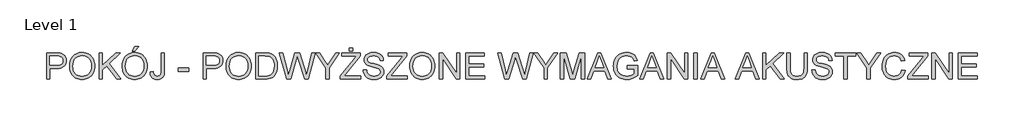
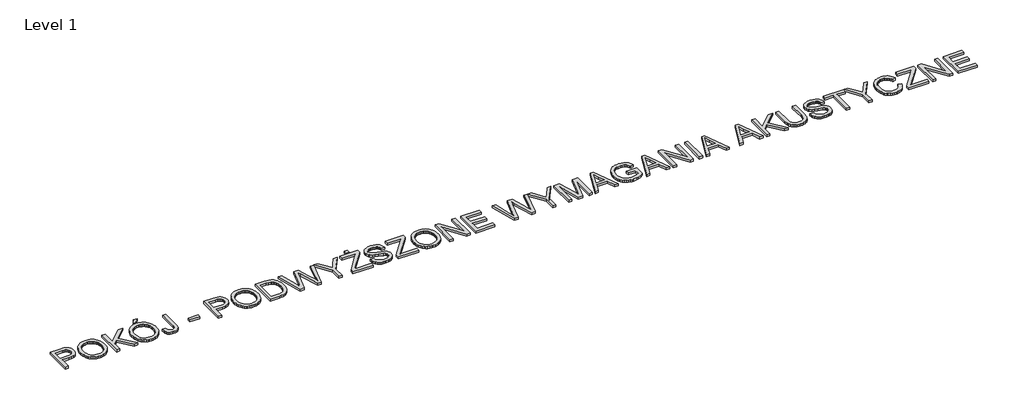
# One storey, part 3 of 4: 1 proxy.
"""IFC4 building model written with IfcOpenShell, lengths in millimetres."""

from ifc_helpers import new_model, si_unit, origin, origin_with_axes, place, context, project, spatial, polyline, outline, extrude, element, save

model = new_model("IFC4")

# Units and contexts
model_context = context("Model", 3, world=origin())
ifc_project = project(units=[si_unit("LENGTHUNIT", "METRE", prefix="MILLI")], contexts=[model_context])

# Site, building, storey
site = spatial("IfcSite", under=ifc_project)
building = spatial("IfcBuilding", under=site)
storey = spatial("IfcBuildingStorey", under=building, Name="Level 1", Elevation=0.0)

# Proxy
placement = place(None, origin())
element("IfcBuildingElementProxy", 1, Name="600mm Arial", ObjectType="600mm Arial", at=placement, inside=storey, context=model_context, shape_type="SweptSolid", body=[
    extrude(outline(polyline([(-7164.3367572, -1712.099464), (-7164.3367572, -1109.3616031), (-6940.9588097, -1109.3616031), (-6888.9402956, -1110.7963429), (-6850.9012973, -1115.1005622), (-6810.7469775, -1125.8243224), (-6777.6927802, -1143.2803231), (-6751.0765179, -1168.2595105), (-6730.2360029, -1201.5528311), (-6716.7715218, -1240.8242341), (-6712.2833615, -1283.7376688), (-6715.3137894, -1320.7374005), (-6724.4050732, -1354.7756821), (-6739.5572129, -1385.8525136), (-6760.7702085, -1413.9678951), (-6789.8926669, -1437.2732195), (-6828.7731953, -1453.9198798), (-6877.4117936, -1463.907876), (-6935.8084618, -1467.237208), (-7088.9945246, -1467.237208), (-7088.9945246, -1712.099464), (-7164.3367572, -1712.099464)]), holes=[polyline([(-7088.9945246, -1391.8949754), (-6931.3938778, -1391.8949754), (-6895.1575013, -1390.16593), (-6864.5865075, -1384.9787939), (-6839.6808964, -1376.333567), (-6820.4406681, -1364.2302494), (-6806.0840732, -1348.9907377), (-6795.8293626, -1330.9369288), (-6789.6765362, -1310.0688226), (-6787.6255941, -1286.3864192), (-6792.4632423, -1252.5412756), (-6806.9761871, -1223.9936328), (-6829.3618065, -1202.5093243), (-6857.8174788, -1189.8541837), (-6886.8801564, -1185.9914227), (-6933.1597114, -1184.7038357), (-7088.9945246, -1184.7038357), (-7088.9945246, -1391.8949754)])]), origin_with_axes(), (0.0, 0.0, 1.0), 50.0),
    extrude(outline(polyline([(-6636.9411289, -1418.6767847), (-6631.9195397, -1347.9790622), (-6616.8547719, -1285.3931378), (-6591.7468258, -1230.9190114), (-6575.4266608, -1206.7238724), (-6556.5957011, -1184.5566829), (-6513.5075225, -1147.5385572), (-6464.5884141, -1121.0970388), (-6409.8383762, -1105.2321277), (-6349.2574087, -1099.943824), (-6308.7076157, -1102.4270275), (-6270.1995679, -1109.8766379), (-6233.7332651, -1122.2926552), (-6199.3087074, -1139.6750795), (-6167.891585, -1161.4996789), (-6140.4475882, -1187.2422215), (-6116.9767169, -1216.9027073), (-6097.4789712, -1250.4811365), (-6082.1566861, -1287.2141537), (-6071.2121967, -1326.3384039), (-6064.6455031, -1367.853887), (-6062.4566052, -1411.7606031), (-6064.7604662, -1456.2467334), (-6071.6720492, -1498.3232366), (-6083.1913542, -1537.9901127), (-6099.3183811, -1575.2473618), (-6119.6714525, -1609.1108995), (-6143.8688907, -1638.5966414), (-6171.9106958, -1663.7045875), (-6203.7968678, -1684.434738), (-6238.2720092, -1700.658334), (-6274.0807229, -1712.2466168), (-6311.2230089, -1719.1995865), (-6349.6988671, -1721.5172431), (-6390.9568328, -1718.9558647), (-6429.9707184, -1711.2717295), (-6466.7405238, -1698.4648376), (-6501.2662491, -1680.5351888), (-6532.6465833, -1658.1771606), (-6559.9802155, -1632.0851301), (-6583.2671458, -1602.2590973), (-6602.5073741, -1568.6990623), (-6617.5721418, -1532.7523928), (-6628.3326902, -1495.7664567), (-6634.7890192, -1457.741254), (-6636.9411289, -1418.6767847)]), holes=[polyline([(-6561.5988963, -1419.4125486), (-6557.8327043, -1469.3617265), (-6546.5341286, -1513.700704), (-6527.7031689, -1552.429481), (-6501.3398255, -1585.5480577), (-6469.2927052, -1612.0723495), (-6433.4104151, -1631.0182723), (-6393.6929551, -1642.3858259), (-6350.1403254, -1646.1750105), (-6305.8427347, -1642.3490377), (-6265.6562253, -1630.8711195), (-6229.5807971, -1611.7412557), (-6197.6164502, -1584.9594465), (-6171.4462448, -1551.1418941), (-6152.7532409, -1510.9048008), (-6141.5374386, -1464.2481668), (-6137.7988378, -1411.171992), (-6139.3991245, -1376.692252), (-6144.1999845, -1344.4749862), (-6152.2014179, -1314.5201948), (-6163.4034247, -1286.8278776), (-6177.6818446, -1261.7613181), (-6194.9125176, -1239.6837999), (-6215.0954435, -1220.5953229), (-6238.2306225, -1204.4958871), (-6263.6006846, -1191.7165863), (-6290.4882599, -1182.5885142), (-6318.8933485, -1177.111671), (-6348.8159503, -1175.2860566), (-6390.8556653, -1178.8039282), (-6429.8603538, -1189.357543), (-6465.8300159, -1206.9469009), (-6498.7646515, -1231.5720019), (-6526.2546336, -1264.4192655), (-6545.8903351, -1306.6751112), (-6557.671756, -1358.3395389), (-6561.5988963, -1419.4125486)])]), origin_with_axes(), (0.0, 0.0, 1.0), 50.0),
    extrude(outline(polyline([(-5958.8610354, -1712.099464), (-5958.8610354, -1109.3616031), (-5883.5188028, -1109.3616031), (-5883.5188028, -1404.4029632), (-5574.4979268, -1109.3616031), (-5469.1365234, -1109.3616031), (-5728.5669064, -1357.1669151), (-5459.7187443, -1712.099464), (-5551.8363959, -1712.099464), (-5781.9833721, -1408.0817832), (-5883.5188028, -1504.9083243), (-5883.5188028, -1712.099464), (-5958.8610354, -1712.099464)])), origin_with_axes(), (0.0, 0.0, 1.0), 50.0),
    extrude(outline(polyline([(-5431.4654071, -1418.6767847), (-5426.4438179, -1347.9790622), (-5411.3790502, -1285.3931378), (-5386.271104, -1230.9190114), (-5369.950939, -1206.7238724), (-5351.1199793, -1184.5566829), (-5308.0318007, -1147.5385572), (-5259.1126923, -1121.0970388), (-5204.3626544, -1105.2321277), (-5143.7816869, -1099.943824), (-5103.2318939, -1102.4270275), (-5064.7238461, -1109.8766379), (-5028.2575433, -1122.2926552), (-4993.8329856, -1139.6750795), (-4962.4158632, -1161.4996789), (-4934.9718664, -1187.2422215), (-4911.5009951, -1216.9027073), (-4892.0032494, -1250.4811365), (-4876.6809643, -1287.2141537), (-4865.7364749, -1326.3384039), (-4859.1697813, -1367.853887), (-4856.9808834, -1411.7606031), (-4859.2847444, -1456.2467334), (-4866.1963274, -1498.3232366), (-4877.7156324, -1537.9901127), (-4893.8426593, -1575.2473618), (-4914.1957307, -1609.1108995), (-4938.393169, -1638.5966414), (-4966.434974, -1663.7045875), (-4998.321146, -1684.434738), (-5032.7962874, -1700.658334), (-5068.6050011, -1712.2466168), (-5105.7472871, -1719.1995865), (-5144.2231453, -1721.5172431), (-5185.481111, -1718.9558647), (-5224.4949966, -1711.2717295), (-5261.264802, -1698.4648376), (-5295.7905273, -1680.5351888), (-5327.1708615, -1658.1771606), (-5354.5044937, -1632.0851301), (-5377.791424, -1602.2590973), (-5397.0316523, -1568.6990623), (-5412.09642, -1532.7523928), (-5422.8569684, -1495.7664567), (-5429.3132974, -1457.741254), (-5431.4654071, -1418.6767847)]), holes=[polyline([(-5356.1231745, -1419.4125486), (-5352.3569826, -1469.3617265), (-5341.0584068, -1513.700704), (-5322.2274471, -1552.429481), (-5295.8641037, -1585.5480577), (-5263.8169834, -1612.0723495), (-5227.9346933, -1631.0182723), (-5188.2172334, -1642.3858259), (-5144.6646036, -1646.1750105), (-5100.3670129, -1642.3490377), (-5060.1805035, -1630.8711195), (-5024.1050753, -1611.7412557), (-4992.1407284, -1584.9594465), (-4965.970523, -1551.1418941), (-4947.2775191, -1510.9048008), (-4936.0617168, -1464.2481668), (-4932.323116, -1411.171992), (-4933.9234027, -1376.692252), (-4938.7242627, -1344.4749862), (-4946.7256961, -1314.5201948), (-4957.9277029, -1286.8278776), (-4972.2061228, -1261.7613181), (-4989.4367958, -1239.6837999), (-5009.6197217, -1220.5953229), (-5032.7549007, -1204.4958871), (-5058.1249628, -1191.7165863), (-5085.0125381, -1182.5885142), (-5113.4176267, -1177.111671), (-5143.3402285, -1175.2860566), (-5185.3799435, -1178.8039282), (-5224.384632, -1189.357543), (-5260.3542941, -1206.9469009), (-5293.2889297, -1231.5720019), (-5320.7789118, -1264.4192655), (-5340.4146133, -1306.6751112), (-5352.1960342, -1358.3395389), (-5356.1231745, -1419.4125486)])]), origin_with_axes(), (0.0, 0.0, 1.0), 50.0),
    extrude(outline(polyline([(-5196.0209302, -1071.6904868), (-5139.5142557, -958.6771379), (-5045.336465, -958.6771379), (-5139.5142557, -1071.6904868), (-5196.0209302, -1071.6904868)])), origin_with_axes(), (0.0, 0.0, 1.0), 50.0),
    extrude(outline(polyline([(-4791.0564299, -1542.8737462), (-4715.7141973, -1533.1616616), (-4713.0562499, -1563.116453), (-4707.8783108, -1587.9392906), (-4700.18038, -1607.6301744), (-4689.9624576, -1622.1891044), (-4677.3808934, -1632.6829383), (-4662.5920372, -1640.1785339), (-4645.595889, -1644.6758913), (-4626.3924488, -1646.1750105), (-4598.5621759, -1642.772102), (-4574.8153931, -1632.5633766), (-4556.4948698, -1616.4869335), (-4544.9433751, -1595.4808715), (-4538.8181399, -1565.0754246), (-4536.7763948, -1520.8008265), (-4536.7763948, -1109.3616031), (-4461.4341622, -1109.3616031), (-4461.4341622, -1519.4764513), (-4465.9775048, -1586.5597332), (-4471.6566831, -1613.6864318), (-4479.6075328, -1636.5365022), (-4490.0277903, -1656.0204524), (-4503.1151923, -1673.0487902), (-4518.8697387, -1687.6215158), (-4537.2914296, -1699.738629), (-4580.2048643, -1716.0725896), (-4629.924116, -1721.5172431), (-4667.0526064, -1718.7075443), (-4699.5641777, -1710.2784481), (-4727.45883, -1696.2299544), (-4750.7365632, -1676.5620633), (-4768.9835102, -1651.348351), (-4781.7858036, -1620.6623941), (-4789.1434435, -1584.5041925), (-4791.0564299, -1542.8737462)])), origin_with_axes(), (0.0, 0.0, 1.0), 50.0),
    extrude(outline(polyline([(-4141.2296736, -1533.1616616), (-4141.2296736, -1457.8194289), (-3905.7851967, -1457.8194289), (-3905.7851967, -1533.1616616), (-4141.2296736, -1533.1616616)])), origin_with_axes(), (0.0, 0.0, 1.0), 50.0),
    extrude(outline(polyline([(-3576.162929, -1712.099464), (-3576.162929, -1109.3616031), (-3352.7849815, -1109.3616031), (-3300.7664674, -1110.7963429), (-3262.7274691, -1115.1005622), (-3222.5731493, -1125.8243224), (-3189.5189521, -1143.2803231), (-3162.9026897, -1168.2595105), (-3142.0621747, -1201.5528311), (-3128.5976937, -1240.8242341), (-3124.1095333, -1283.7376688), (-3127.1399613, -1320.7374005), (-3136.2312451, -1354.7756821), (-3151.3833848, -1385.8525136), (-3172.5963803, -1413.9678951), (-3201.7188387, -1437.2732195), (-3240.5993671, -1453.9198798), (-3289.2379654, -1463.907876), (-3347.6346336, -1467.237208), (-3500.8206964, -1467.237208), (-3500.8206964, -1712.099464), (-3576.162929, -1712.099464)]), holes=[polyline([(-3500.8206964, -1391.8949754), (-3343.2200497, -1391.8949754), (-3306.9836731, -1390.16593), (-3276.4126793, -1384.9787939), (-3251.5070683, -1376.333567), (-3232.2668399, -1364.2302494), (-3217.9102451, -1348.9907377), (-3207.6555344, -1330.9369288), (-3201.5027081, -1310.0688226), (-3199.451766, -1286.3864192), (-3204.2894142, -1252.5412756), (-3218.8023589, -1223.9936328), (-3241.1879783, -1202.5093243), (-3269.6436506, -1189.8541837), (-3298.7063283, -1185.9914227), (-3344.9858832, -1184.7038357), (-3500.8206964, -1184.7038357), (-3500.8206964, -1391.8949754)])]), origin_with_axes(), (0.0, 0.0, 1.0), 50.0),
    extrude(outline(polyline([(-3048.7673007, -1418.6767847), (-3043.7457115, -1347.9790622), (-3028.6809438, -1285.3931378), (-3003.5729976, -1230.9190114), (-2987.2528326, -1206.7238724), (-2968.421873, -1184.5566829), (-2925.3336943, -1147.5385572), (-2876.414586, -1121.0970388), (-2821.6645481, -1105.2321277), (-2761.0835805, -1099.943824), (-2720.5337876, -1102.4270275), (-2682.0257397, -1109.8766379), (-2645.559437, -1122.2926552), (-2611.1348793, -1139.6750795), (-2579.7177569, -1161.4996789), (-2552.27376, -1187.2422215), (-2528.8028887, -1216.9027073), (-2509.305143, -1250.4811365), (-2493.9828579, -1287.2141537), (-2483.0383685, -1326.3384039), (-2476.4716749, -1367.853887), (-2474.2827771, -1411.7606031), (-2476.5866381, -1456.2467334), (-2483.498221, -1498.3232366), (-2495.017526, -1537.9901127), (-2511.144553, -1575.2473618), (-2531.4976244, -1609.1108995), (-2555.6950626, -1638.5966414), (-2583.7368677, -1663.7045875), (-2615.6230396, -1684.434738), (-2650.0981811, -1700.658334), (-2685.9068948, -1712.2466168), (-2723.0491807, -1719.1995865), (-2761.5250389, -1721.5172431), (-2802.7830047, -1718.9558647), (-2841.7968902, -1711.2717295), (-2878.5666957, -1698.4648376), (-2913.0924209, -1680.5351888), (-2944.4727551, -1658.1771606), (-2971.8063873, -1632.0851301), (-2995.0933176, -1602.2590973), (-3014.333546, -1568.6990623), (-3029.3983137, -1532.7523928), (-3040.158862, -1495.7664567), (-3046.6151911, -1457.741254), (-3048.7673007, -1418.6767847)]), holes=[polyline([(-2973.4250681, -1419.4125486), (-2969.6588762, -1469.3617265), (-2958.3603004, -1513.700704), (-2939.5293408, -1552.429481), (-2913.1659973, -1585.5480577), (-2881.118877, -1612.0723495), (-2845.2365869, -1631.0182723), (-2805.519127, -1642.3858259), (-2761.9664973, -1646.1750105), (-2717.6689065, -1642.3490377), (-2677.4823971, -1630.8711195), (-2641.4069689, -1611.7412557), (-2609.4426221, -1584.9594465), (-2583.2724167, -1551.1418941), (-2564.5794128, -1510.9048008), (-2553.3636104, -1464.2481668), (-2549.6250097, -1411.171992), (-2551.2252964, -1376.692252), (-2556.0261564, -1344.4749862), (-2564.0275898, -1314.5201948), (-2575.2295965, -1286.8278776), (-2589.5080165, -1261.7613181), (-2606.7386894, -1239.6837999), (-2626.9216154, -1220.5953229), (-2650.0567944, -1204.4958871), (-2675.4268564, -1191.7165863), (-2702.3144318, -1182.5885142), (-2730.7195203, -1177.111671), (-2760.6421221, -1175.2860566), (-2802.6818371, -1178.8039282), (-2841.6865256, -1189.357543), (-2877.6561877, -1206.9469009), (-2910.5908233, -1231.5720019), (-2938.0808054, -1264.4192655), (-2957.7165069, -1306.6751112), (-2969.4979278, -1358.3395389), (-2973.4250681, -1419.4125486)])]), origin_with_axes(), (0.0, 0.0, 1.0), 50.0),
    extrude(outline(polyline([(-2370.6872072, -1712.099464), (-2370.6872072, -1109.3616031), (-2162.7603035, -1109.3616031), (-2100.6250346, -1111.5321069), (-2055.1916082, -1118.0436182), (-2007.1462196, -1134.782249), (-1966.6056237, -1161.159388), (-1944.2659896, -1182.7172729), (-1924.9245937, -1207.071061), (-1908.581436, -1234.2207523), (-1895.2365167, -1264.1663467), (-1884.8714414, -1296.6319328), (-1877.4678163, -1331.341599), (-1871.5449162, -1407.493172), (-1875.5548299, -1472.1852209), (-1887.5845712, -1529.1149596), (-1905.9050945, -1577.5834125), (-1928.7873546, -1616.8916037), (-1955.1277055, -1647.9224499), (-1983.8225011, -1671.5588681), (-2016.7663338, -1689.0884452), (-2055.8537957, -1701.7987681), (-2101.1584635, -1709.52429), (-2152.7539133, -1712.099464), (-2370.6872072, -1712.099464)]), holes=[polyline([(-2295.3449746, -1636.7572314), (-2162.0245396, -1636.7572314), (-2106.8790285, -1634.0349046), (-2065.0508456, -1625.8679243), (-2033.4865704, -1612.7345371), (-2009.1327824, -1595.1129895), (-1982.9579784, -1562.5002507), (-1963.2946858, -1520.2857917), (-1950.989033, -1468.2856717), (-1946.8871488, -1406.3159496), (-1948.8967042, -1362.5747804), (-1954.9253704, -1324.2046883), (-1964.9731474, -1291.2056733), (-1979.0400352, -1263.5777355), (-1995.9855996, -1240.6954754), (-2014.6694064, -1221.9334936), (-2035.0914556, -1207.2917902), (-2057.2517473, -1196.7703652), (-2100.5882464, -1187.7204681), (-2164.0846787, -1184.7038357), (-2295.3449746, -1184.7038357), (-2295.3449746, -1636.7572314)])]), origin_with_axes(), (0.0, 0.0, 1.0), 50.0),
    extrude(outline(polyline([(-1660.0863453, -1712.099464), (-1824.4560208, -1109.3616031), (-1746.7593434, -1109.3616031), (-1651.4043302, -1505.4969355), (-1621.9737706, -1627.7809107), (-1590.4830718, -1519.6236041), (-1470.9949998, -1109.3616031), (-1359.0117205, -1109.3616031), (-1272.1915696, -1406.757408), (-1234.9986999, -1517.1220066), (-1207.5914913, -1627.7809107), (-1179.0438484, -1509.0286027), (-1082.8059185, -1109.3616031), (-1005.1092411, -1109.3616031), (-1169.6260694, -1712.099464), (-1250.1186499, -1712.099464), (-1394.6226976, -1247.0966221), (-1414.782631, -1182.2022382), (-1437.4441619, -1260.3403739), (-1569.1459161, -1712.099464), (-1660.0863453, -1712.099464)])), origin_with_axes(), (0.0, 0.0, 1.0), 50.0),
    extrude(outline(polyline([(-760.2469851, -1712.099464), (-760.2469851, -1456.7893594), (-995.691462, -1109.3616031), (-906.811172, -1109.3616031), (-781.1426825, -1294.9212815), (-716.8369097, -1389.5405306), (-652.3839841, -1288.1522528), (-538.3405656, -1109.3616031), (-449.4602756, -1109.3616031), (-684.9047525, -1456.7893594), (-684.9047525, -1712.099464), (-760.2469851, -1712.099464)])), origin_with_axes(), (0.0, 0.0, 1.0), 50.0),
    extrude(outline(polyline([(-430.6247175, -1712.099464), (-430.6247175, -1633.9613282), (-122.3396055, -1256.5144012), (-63.7727919, -1184.7038357), (-392.9536011, -1184.7038357), (-392.9536011, -1109.3616031), (30.8464573, -1109.3616031), (30.8464573, -1184.7038357), (-306.5749087, -1597.7617399), (-338.3599131, -1636.7572314), (40.2642364, -1636.7572314), (40.2642364, -1712.099464), (-430.6247175, -1712.099464)])), origin_with_axes(), (0.0, 0.0, 1.0), 50.0),
    extrude(outline(polyline([(-223.4335778, -1071.6904868), (-223.4335778, -996.3482542), (-148.0913452, -996.3482542), (-148.0913452, -1071.6904868), (-223.4335778, -1071.6904868)])), origin_with_axes(), (0.0, 0.0, 1.0), 50.0),
    extrude(outline(polyline([(96.7709108, -1504.9083243), (172.1131434, -1504.9083243), (180.7583703, -1546.7181131), (196.3933551, -1580.3241333), (220.7839314, -1606.995578), (255.6959327, -1628.0016399), (298.3702442, -1641.6316678), (346.0477508, -1646.1750105), (388.0230864, -1642.7353138), (424.7744977, -1632.4162238), (454.5545452, -1616.0822633), (475.6157895, -1594.5979547), (488.1421714, -1569.931467), (492.317632, -1544.0509686), (489.1906351, -1518.8326578), (479.8096442, -1497.0356496), (460.7533569, -1478.4392148), (428.6004705, -1462.8226241), (318.8980595, -1434.0542521), (246.885159, -1415.0163588), (200.8079391, -1396.8981705), (163.3023697, -1371.5511011), (136.7228955, -1340.8329545), (120.8855756, -1305.4059183), (115.606469, -1265.9321803), (117.2389453, -1243.4959771), (122.1363744, -1221.8047349), (130.2987562, -1200.8584538), (141.7260906, -1180.6571338), (156.2896191, -1162.0239107), (173.8605829, -1145.7819206), (194.438982, -1131.9311635), (218.0248164, -1120.4716394), (271.0366119, -1105.0757779), (329.7137902, -1099.943824), (393.2837989, -1105.3149012), (448.9075566, -1121.4281325), (473.2429506, -1133.4302826), (494.5985004, -1147.9524244), (512.9742061, -1164.9945578), (528.3700676, -1184.5566829), (540.6665233, -1206.0685826), (549.7440115, -1228.9600397), (555.6025323, -1253.2310544), (558.2420856, -1278.8816265), (482.899853, -1278.8816265), (477.8598696, -1254.8405381), (469.06749, -1233.9264467), (456.5227139, -1216.1393522), (440.2255415, -1201.4792547), (419.8724701, -1190.0197305), (395.1599971, -1181.8343562), (366.0881225, -1176.9231315), (332.6568461, -1175.2860566), (298.158712, -1176.9047374), (268.6821672, -1181.7607798), (244.2272115, -1189.8541837), (224.7938452, -1201.1849491), (209.9865948, -1214.80578), (199.4099875, -1229.7693801), (193.0640231, -1246.0757496), (190.9487016, -1263.7248883), (192.4478207, -1278.9092176), (196.9451781, -1292.6772013), (204.4407738, -1305.0288393), (214.9346077, -1315.9641316), (231.4525093, -1326.3200098), (257.4617663, -1336.7862525), (337.9543469, -1358.0498318), (421.0221014, -1378.2465534), (471.2747819, -1395.868101), (514.2250049, -1423.2017332), (530.8302784, -1439.2689793), (544.1889934, -1456.9365122), (554.4574996, -1476.1123611), (561.7921468, -1496.7045558), (567.6598647, -1542.1379822), (565.972206, -1565.7054225), (560.90923, -1588.5830841), (552.4709368, -1610.770967), (540.6573262, -1632.2690711), (525.675332, -1652.2450634), (507.7318876, -1669.866611), (486.8269933, -1685.1337138), (462.9606488, -1698.0463718), (436.8272316, -1708.314878), (409.1211188, -1715.6495253), (348.9908067, -1721.5172431), (310.4505692, -1719.9353505), (275.1752844, -1715.1896728), (243.1649523, -1707.2802099), (214.4195729, -1696.2069618), (188.7644023, -1681.9515345), (166.0246964, -1664.4955338), (146.2004554, -1643.8389598), (129.2916792, -1619.9818124), (115.6708483, -1593.6966439), (105.7104433, -1565.7560063), (99.4104641, -1536.1598998), (96.7709108, -1504.9083243)])), origin_with_axes(), (0.0, 0.0, 1.0), 50.0),
    extrude(outline(polyline([(633.5843182, -1712.099464), (633.5843182, -1633.9613282), (941.8694302, -1256.5144012), (1000.4362438, -1184.7038357), (671.2554345, -1184.7038357), (671.2554345, -1109.3616031), (1095.0554929, -1109.3616031), (1095.0554929, -1184.7038357), (757.634127, -1597.7617399), (725.8491226, -1636.7572314), (1104.473272, -1636.7572314), (1104.473272, -1712.099464), (633.5843182, -1712.099464)])), origin_with_axes(), (0.0, 0.0, 1.0), 50.0),
    extrude(outline(polyline([(1160.9799465, -1418.6767847), (1166.0015357, -1347.9790622), (1181.0663034, -1285.3931378), (1206.1742496, -1230.9190114), (1222.4944146, -1206.7238724), (1241.3253742, -1184.5566829), (1284.4135529, -1147.5385572), (1333.3326612, -1121.0970388), (1388.0826992, -1105.2321277), (1448.6636667, -1099.943824), (1489.2134596, -1102.4270275), (1527.7215075, -1109.8766379), (1564.1878102, -1122.2926552), (1598.6123679, -1139.6750795), (1630.0294903, -1161.4996789), (1657.4734872, -1187.2422215), (1680.9443585, -1216.9027073), (1700.4421042, -1250.4811365), (1715.7643893, -1287.2141537), (1726.7088787, -1326.3384039), (1733.2755723, -1367.853887), (1735.4644701, -1411.7606031), (1733.1606092, -1456.2467334), (1726.2490262, -1498.3232366), (1714.7297212, -1537.9901127), (1698.6026942, -1575.2473618), (1678.2496228, -1609.1108995), (1654.0521846, -1638.5966414), (1626.0103795, -1663.7045875), (1594.1242076, -1684.434738), (1559.6490661, -1700.658334), (1523.8403524, -1712.2466168), (1486.6980665, -1719.1995865), (1448.2222083, -1721.5172431), (1406.9642426, -1718.9558647), (1367.950357, -1711.2717295), (1331.1805515, -1698.4648376), (1296.6548263, -1680.5351888), (1265.2744921, -1658.1771606), (1237.9408599, -1632.0851301), (1214.6539296, -1602.2590973), (1195.4137012, -1568.6990623), (1180.3489335, -1532.7523928), (1169.5883852, -1495.7664567), (1163.1320562, -1457.741254), (1160.9799465, -1418.6767847)]), holes=[polyline([(1236.3221791, -1419.4125486), (1240.088371, -1469.3617265), (1251.3869468, -1513.700704), (1270.2179064, -1552.429481), (1296.5812499, -1585.5480577), (1328.6283702, -1612.0723495), (1364.5106603, -1631.0182723), (1404.2281202, -1642.3858259), (1447.7807499, -1646.1750105), (1492.0783407, -1642.3490377), (1532.2648501, -1630.8711195), (1568.3402783, -1611.7412557), (1600.3046251, -1584.9594465), (1626.4748306, -1551.1418941), (1645.1678344, -1510.9048008), (1656.3836368, -1464.2481668), (1660.1222375, -1411.171992), (1658.5219509, -1376.692252), (1653.7210908, -1344.4749862), (1645.7196574, -1314.5201948), (1634.5176507, -1286.8278776), (1620.2392307, -1261.7613181), (1603.0085578, -1239.6837999), (1582.8256318, -1220.5953229), (1559.6904529, -1204.4958871), (1534.3203908, -1191.7165863), (1507.4328154, -1182.5885142), (1479.0277269, -1177.111671), (1449.1051251, -1175.2860566), (1407.0654101, -1178.8039282), (1368.0607216, -1189.357543), (1332.0910595, -1206.9469009), (1299.1564239, -1231.5720019), (1271.6664418, -1264.4192655), (1252.0307403, -1306.6751112), (1240.2493194, -1358.3395389), (1236.3221791, -1419.4125486)])]), origin_with_axes(), (0.0, 0.0, 1.0), 50.0),
    extrude(outline(polyline([(1839.06004, -1712.099464), (1839.06004, -1109.3616031), (1919.6997733, -1109.3616031), (2234.6067612, -1586.8724328), (2234.6067612, -1109.3616031), (2309.9489938, -1109.3616031), (2309.9489938, -1712.099464), (2229.3092605, -1712.099464), (1914.4022726, -1234.4414815), (1914.4022726, -1712.099464), (1839.06004, -1712.099464)])), origin_with_axes(), (0.0, 0.0, 1.0), 50.0),
    extrude(outline(polyline([(2441.7979009, -1712.099464), (2441.7979009, -1109.3616031), (2875.0157384, -1109.3616031), (2875.0157384, -1184.7038357), (2517.1401335, -1184.7038357), (2517.1401335, -1363.6416382), (2856.1801803, -1363.6416382), (2856.1801803, -1438.9838708), (2517.1401335, -1438.9838708), (2517.1401335, -1636.7572314), (2884.4335175, -1636.7572314), (2884.4335175, -1712.099464), (2441.7979009, -1712.099464)])), origin_with_axes(), (0.0, 0.0, 1.0), 50.0),
    extrude(outline(polyline([(3340.7543443, -1712.099464), (3176.3846689, -1109.3616031), (3254.0813462, -1109.3616031), (3349.4363594, -1505.4969355), (3378.866919, -1627.7809107), (3410.3576178, -1519.6236041), (3529.8456898, -1109.3616031), (3641.8289692, -1109.3616031), (3728.64912, -1406.757408), (3765.8419897, -1517.1220066), (3793.2491984, -1627.7809107), (3821.7968412, -1509.0286027), (3918.0347711, -1109.3616031), (3995.7314485, -1109.3616031), (3831.2146203, -1712.099464), (3750.7220397, -1712.099464), (3606.217992, -1247.0966221), (3586.0580587, -1182.2022382), (3563.3965278, -1260.3403739), (3431.6947735, -1712.099464), (3340.7543443, -1712.099464)])), origin_with_axes(), (0.0, 0.0, 1.0), 50.0),
    extrude(outline(polyline([(4240.5937045, -1712.099464), (4240.5937045, -1456.7893594), (4005.1492276, -1109.3616031), (4094.0295176, -1109.3616031), (4219.6980072, -1294.9212815), (4284.0037799, -1389.5405306), (4348.4567055, -1288.1522528), (4462.500124, -1109.3616031), (4551.380414, -1109.3616031), (4315.9359371, -1456.7893594), (4315.9359371, -1712.099464), (4240.5937045, -1712.099464)])), origin_with_axes(), (0.0, 0.0, 1.0), 50.0),
    extrude(outline(polyline([(4617.3048676, -1712.099464), (4617.3048676, -1109.3616031), (4746.9464827, -1109.3616031), (4870.2605274, -1534.1917311), (4895.1293503, -1622.9248684), (4922.0583124, -1526.8340912), (5043.312218, -1109.3616031), (5172.9538331, -1109.3616031), (5172.9538331, -1712.099464), (5097.6116005, -1712.099464), (5097.6116005, -1184.7038357), (4946.1913713, -1712.099464), (4844.0673294, -1712.099464), (4692.6471002, -1184.7038357), (4692.6471002, -1712.099464), (4617.3048676, -1712.099464)])), origin_with_axes(), (0.0, 0.0, 1.0), 50.0),
    extrude(outline(polyline([(5234.6108555, -1712.099464), (5475.2056803, -1109.3616031), (5539.3643003, -1109.3616031), (5779.9591251, -1712.099464), (5700.3494614, -1712.099464), (5631.3347991, -1523.7438825), (5383.0880287, -1523.7438825), (5314.2205192, -1712.099464), (5234.6108555, -1712.099464)]), holes=[polyline([(5410.7527548, -1448.4016499), (5603.8172258, -1448.4016499), (5549.5178433, -1300.2187822), (5507.2849903, -1184.7038357), (5469.7610268, -1287.269336), (5410.7527548, -1448.4016499)])]), origin_with_axes(), (0.0, 0.0, 1.0), 50.0),
    extrude(outline(polyline([(6142.985078, -1476.6549871), (6142.985078, -1401.3127545), (6387.847334, -1401.3127545), (6387.847334, -1626.6036883), (6328.3424212, -1667.9904128), (6266.9613103, -1697.6784898), (6203.8511541, -1715.5575548), (6139.1591052, -1721.5172431), (6095.882387, -1719.1490027), (6054.6382168, -1712.0442817), (6015.4265947, -1700.20308), (5978.2475205, -1683.6253976), (5944.3012094, -1662.5595548), (5914.7878764, -1637.2538721), (5889.7075213, -1607.7083493), (5869.0601444, -1573.9229866), (5852.9331174, -1536.9784373), (5841.4138124, -1497.9553546), (5834.5022294, -1456.8537387), (5832.1983684, -1413.6735895), (5834.4930324, -1370.4888418), (5841.3770242, -1328.7848191), (5852.8503439, -1288.5615215), (5868.9129916, -1249.8189489), (5889.2798585, -1214.2585555), (5913.6658363, -1183.5817956), (5942.0709248, -1157.7886692), (5974.4951242, -1136.8791763), (6010.23486, -1120.7199597), (6048.586558, -1109.1776621), (6089.5502182, -1102.2522836), (6133.1258405, -1099.943824), (6195.1875331, -1105.2965071), (6250.9952317, -1121.3545561), (6275.9146384, -1133.1083859), (6297.9921566, -1146.959143), (6317.2277865, -1162.9068275), (6333.6215279, -1180.9514394), (6359.9802728, -1224.9685201), (6379.1653189, -1280.6474601), (6309.7091982, -1300.2187822), (6294.2029721, -1260.5059208), (6275.3490198, -1230.5419323), (6250.4066206, -1207.9539778), (6216.6350534, -1190.3692184), (6176.370369, -1179.0568471), (6131.9486181, -1175.2860566), (6079.9484981, -1179.3511527), (6035.489959, -1191.5464408), (5998.7385477, -1210.3452108), (5969.859811, -1234.2207523), (5947.6949208, -1261.9406606), (5931.0850487, -1292.2725311), (5913.426713, -1349.1470876), (5907.540601, -1410.5833808), (5909.3110331, -1448.2039133), (5914.6223295, -1482.6330695), (5923.47449, -1513.8708494), (5935.8675147, -1541.917253), (5951.6404552, -1566.6665143), (5970.6323632, -1588.012867), (5992.8432387, -1605.9563113), (6018.2730816, -1620.4968472), (6045.730874, -1631.7310436), (6074.025598, -1639.7554697), (6103.1572535, -1644.5701253), (6133.1258405, -1646.1750105), (6185.3099015, -1641.3373622), (6236.2063755, -1626.8244175), (6280.4073973, -1606.8300311), (6312.5051013, -1585.5480577), (6312.5051013, -1476.6549871), (6142.985078, -1476.6549871)])), origin_with_axes(), (0.0, 0.0, 1.0), 50.0),
    extrude(outline(polyline([(6440.0865773, -1712.099464), (6680.6814021, -1109.3616031), (6744.8400221, -1109.3616031), (6985.4348469, -1712.099464), (6905.8251832, -1712.099464), (6836.8105209, -1523.7438825), (6588.5637505, -1523.7438825), (6519.696241, -1712.099464), (6440.0865773, -1712.099464)]), holes=[polyline([(6616.2284766, -1448.4016499), (6809.2929476, -1448.4016499), (6754.9935651, -1300.2187822), (6712.7607121, -1184.7038357), (6675.2367486, -1287.269336), (6616.2284766, -1448.4016499)])]), origin_with_axes(), (0.0, 0.0, 1.0), 50.0),
    extrude(outline(polyline([(7065.9274275, -1712.099464), (7065.9274275, -1109.3616031), (7146.5671608, -1109.3616031), (7461.4741487, -1586.8724328), (7461.4741487, -1109.3616031), (7536.8163813, -1109.3616031), (7536.8163813, -1712.099464), (7456.1766479, -1712.099464), (7141.2696601, -1234.4414815), (7141.2696601, -1712.099464), (7065.9274275, -1712.099464)])), origin_with_axes(), (0.0, 0.0, 1.0), 50.0),
    extrude(outline(polyline([(7678.0830674, -1712.099464), (7678.0830674, -1109.3616031), (7753.4253, -1109.3616031), (7753.4253, -1712.099464), (7678.0830674, -1712.099464)])), origin_with_axes(), (0.0, 0.0, 1.0), 50.0),
    extrude(outline(polyline([(7833.9178806, -1712.099464), (8074.5127054, -1109.3616031), (8138.6713254, -1109.3616031), (8379.2661502, -1712.099464), (8299.6564865, -1712.099464), (8230.6418242, -1523.7438825), (7982.3950538, -1523.7438825), (7913.5275443, -1712.099464), (7833.9178806, -1712.099464)]), holes=[polyline([(8010.0597799, -1448.4016499), (8203.124251, -1448.4016499), (8148.8248685, -1300.2187822), (8106.5920154, -1184.7038357), (8069.0680519, -1287.269336), (8010.0597799, -1448.4016499)])]), origin_with_axes(), (0.0, 0.0, 1.0), 50.0),
    extrude(outline(polyline([(8625.011323, -1712.099464), (8865.6061479, -1109.3616031), (8929.7647678, -1109.3616031), (9170.3595927, -1712.099464), (9090.7499289, -1712.099464), (9021.7352666, -1523.7438825), (8773.4884963, -1523.7438825), (8704.6209868, -1712.099464), (8625.011323, -1712.099464)]), holes=[polyline([(8801.1532223, -1448.4016499), (8994.2176934, -1448.4016499), (8939.9183109, -1300.2187822), (8897.6854578, -1184.7038357), (8860.1614943, -1287.269336), (8801.1532223, -1448.4016499)])]), origin_with_axes(), (0.0, 0.0, 1.0), 50.0),
    extrude(outline(polyline([(9250.8521732, -1712.099464), (9250.8521732, -1109.3616031), (9326.1944058, -1109.3616031), (9326.1944058, -1404.4029632), (9635.2152818, -1109.3616031), (9740.5766852, -1109.3616031), (9481.1463022, -1357.1669151), (9749.9944643, -1712.099464), (9657.8768127, -1712.099464), (9427.7298365, -1408.0817832), (9326.1944058, -1504.9083243), (9326.1944058, -1712.099464), (9250.8521732, -1712.099464)])), origin_with_axes(), (0.0, 0.0, 1.0), 50.0),
    extrude(outline(polyline([(10202.0478599, -1109.3616031), (10277.3900926, -1109.3616031), (10277.3900926, -1457.0836649), (10272.2765328, -1538.5143446), (10265.8845832, -1572.2077368), (10256.9358536, -1601.2198307), (10244.657792, -1626.6496736), (10228.2778462, -1649.596313), (10207.7960161, -1670.059749), (10183.2123018, -1688.0399815), (10154.4991121, -1702.6862835), (10121.6288558, -1713.1479277), (10084.601533, -1719.4249142), (10043.4171436, -1721.5172431), (10003.2490283, -1719.6962272), (9966.9160827, -1714.2331796), (9934.418307, -1705.1281002), (9905.755701, -1692.3809891), (9880.9236664, -1676.1803857), (9859.9176044, -1656.7148296), (9842.7375153, -1633.9843209), (9829.3833988, -1607.9888594), (9819.37241, -1577.8363313), (9812.2217038, -1542.6346229), (9807.93128, -1502.3837341), (9806.5011387, -1457.0836649), (9806.5011387, -1109.3616031), (9881.8433713, -1109.3616031), (9881.8433713, -1454.4349146), (9885.5589795, -1522.1435958), (9896.7058039, -1569.2876735), (9905.4705925, -1586.6654992), (9916.9025255, -1601.9372005), (9931.0016029, -1615.1027775), (9947.7678249, -1626.1622299), (9988.0141151, -1641.1718153), (10036.3538093, -1646.1750105), (10077.8784895, -1643.7010041), (10112.9836289, -1636.2789848), (10141.6692275, -1623.9089527), (10163.9352852, -1606.5909078), (10180.6095367, -1582.2371197), (10192.5197163, -1548.7598581), (10199.665824, -1506.1591231), (10202.0478599, -1454.4349146), (10202.0478599, -1109.3616031)])), origin_with_axes(), (0.0, 0.0, 1.0), 50.0),
    extrude(outline(polyline([(10380.9856624, -1504.9083243), (10456.327895, -1504.9083243), (10464.9731219, -1546.7181131), (10480.6081067, -1580.3241333), (10504.998683, -1606.995578), (10539.9106843, -1628.0016399), (10582.5849958, -1641.6316678), (10630.2625023, -1646.1750105), (10672.237838, -1642.7353138), (10708.9892493, -1632.4162238), (10738.7692968, -1616.0822633), (10759.830541, -1594.5979547), (10772.356923, -1569.931467), (10776.5323836, -1544.0509686), (10773.4053867, -1518.8326578), (10764.0243958, -1497.0356496), (10744.9681084, -1478.4392148), (10712.815222, -1462.8226241), (10603.1128111, -1434.0542521), (10531.0999105, -1415.0163588), (10485.0226906, -1396.8981705), (10447.5171212, -1371.5511011), (10420.9376471, -1340.8329545), (10405.1003272, -1305.4059183), (10399.8212206, -1265.9321803), (10401.4536969, -1243.4959771), (10406.351126, -1221.8047349), (10414.5135077, -1200.8584538), (10425.9408422, -1180.6571338), (10440.5043707, -1162.0239107), (10458.0753345, -1145.7819206), (10478.6537336, -1131.9311635), (10502.239568, -1120.4716394), (10555.2513635, -1105.0757779), (10613.9285417, -1099.943824), (10677.4985505, -1105.3149012), (10733.1223082, -1121.4281325), (10757.4577022, -1133.4302826), (10778.813252, -1147.9524244), (10797.1889576, -1164.9945578), (10812.5848191, -1184.5566829), (10824.8812748, -1206.0685826), (10833.9587631, -1228.9600397), (10839.8172838, -1253.2310544), (10842.4568371, -1278.8816265), (10767.1146045, -1278.8816265), (10762.0746212, -1254.8405381), (10753.2822415, -1233.9264467), (10740.7374655, -1216.1393522), (10724.4402931, -1201.4792547), (10704.0872217, -1190.0197305), (10679.3747487, -1181.8343562), (10650.302874, -1176.9231315), (10616.8715977, -1175.2860566), (10582.3734636, -1176.9047374), (10552.8969187, -1181.7607798), (10528.4419631, -1189.8541837), (10509.0085967, -1201.1849491), (10494.2013464, -1214.80578), (10483.6247391, -1229.7693801), (10477.2787746, -1246.0757496), (10475.1634532, -1263.7248883), (10476.6625723, -1278.9092176), (10481.1599297, -1292.6772013), (10488.6555253, -1305.0288393), (10499.1493592, -1315.9641316), (10515.6672608, -1326.3200098), (10541.6765179, -1336.7862525), (10622.1690984, -1358.0498318), (10705.2368529, -1378.2465534), (10755.4895335, -1395.868101), (10798.4397564, -1423.2017332), (10815.04503, -1439.2689793), (10828.4037449, -1456.9365122), (10838.6722511, -1476.1123611), (10846.0068984, -1496.7045558), (10851.8746162, -1542.1379822), (10850.1869576, -1565.7054225), (10845.1239816, -1588.5830841), (10836.6856883, -1610.770967), (10824.8720778, -1632.2690711), (10809.8900835, -1652.2450634), (10791.9466392, -1669.866611), (10771.0417448, -1685.1337138), (10747.1754004, -1698.0463718), (10721.0419832, -1708.314878), (10693.3358704, -1715.6495253), (10633.2055583, -1721.5172431), (10594.6653208, -1719.9353505), (10559.390036, -1715.1896728), (10527.3797039, -1707.2802099), (10498.6343245, -1696.2069618), (10472.9791538, -1681.9515345), (10450.239448, -1664.4955338), (10430.415207, -1643.8389598), (10413.5064308, -1619.9818124), (10399.8855999, -1593.6966439), (10389.9251949, -1565.7560063), (10383.6252157, -1536.1598998), (10380.9856624, -1504.9083243)])), origin_with_axes(), (0.0, 0.0, 1.0), 50.0),
    extrude(outline(polyline([(11115.5724304, -1712.099464), (11115.5724304, -1184.7038357), (10917.7990698, -1184.7038357), (10917.7990698, -1109.3616031), (11388.6880236, -1109.3616031), (11388.6880236, -1184.7038357), (11190.914663, -1184.7038357), (11190.914663, -1712.099464), (11115.5724304, -1712.099464)])), origin_with_axes(), (0.0, 0.0, 1.0), 50.0),
    extrude(outline(polyline([(11642.9680587, -1712.099464), (11642.9680587, -1456.7893594), (11407.5235817, -1109.3616031), (11496.4038718, -1109.3616031), (11622.0723613, -1294.9212815), (11686.3781341, -1389.5405306), (11750.8310596, -1288.1522528), (11864.8744781, -1109.3616031), (11953.7547682, -1109.3616031), (11718.3102913, -1456.7893594), (11718.3102913, -1712.099464), (11642.9680587, -1712.099464)])), origin_with_axes(), (0.0, 0.0, 1.0), 50.0),
    extrude(outline(polyline([(12443.4792802, -1497.84499), (12518.8215128, -1517.2691594), (12503.9130949, -1564.12353), (12484.0566642, -1605.0641975), (12459.2522207, -1640.091162), (12429.4997643, -1669.2044234), (12395.4706798, -1692.091282), (12357.8363517, -1708.4390382), (12316.59678, -1718.2476918), (12271.7519648, -1721.5172431), (12225.8081021, -1719.0432367), (12184.3615969, -1711.6212174), (12147.412449, -1699.2511853), (12114.9606585, -1681.9331404), (12086.5601684, -1659.9246), (12061.764922, -1633.4830816), (12040.574919, -1602.6085852), (12022.9901597, -1567.3011107), (12009.1807893, -1529.0873685), (11999.3169533, -1489.4940687), (11993.3986517, -1448.5212115), (11991.4258845, -1406.1687968), (11993.6561691, -1360.7261734), (12000.3470229, -1318.2817882), (12011.4984458, -1278.8356412), (12027.110438, -1242.3877326), (12046.8335115, -1209.5404689), (12070.3181783, -1180.8962571), (12097.5644386, -1156.455097), (12128.5722923, -1136.2169888), (12162.2886771, -1120.3474792), (12197.660531, -1109.0121152), (12234.6878538, -1102.2108968), (12273.3706456, -1099.943824), (12316.4634228, -1102.8776829), (12355.9785476, -1111.6792597), (12391.91602, -1126.3485542), (12424.27584, -1146.8855666), (12452.5245787, -1172.7476709), (12476.1288072, -1203.3922411), (12495.0885256, -1238.8192772), (12509.4037337, -1279.0287793), (12434.0615011, -1296.9814206), (12422.1973067, -1267.3531245), (12407.9418794, -1242.0382447), (12391.2952191, -1221.0367813), (12372.2573259, -1204.3487343), (12350.7178351, -1191.6338128), (12326.5663821, -1182.551726), (12299.8029669, -1177.102474), (12270.4275896, -1175.2860566), (12236.6284313, -1177.3002106), (12205.7171467, -1183.3426723), (12177.6937357, -1193.413442), (12152.5581984, -1207.5125194), (12130.6278329, -1225.0053083), (12112.2199376, -1245.2572121), (12097.3345124, -1268.2682309), (12085.9715572, -1294.0383647), (12071.5689771, -1349.1838758), (12066.7681171, -1406.021644), (12072.4518939, -1475.6249175), (12079.556615, -1506.8948871), (12089.5032244, -1535.8104119), (12102.4526706, -1561.7966764), (12118.565902, -1584.2788648), (12137.8429186, -1603.2569772), (12160.2837203, -1618.7310136), (12184.7984567, -1630.7377622), (12210.2972775, -1639.3140113), (12236.7801826, -1644.4597607), (12264.2471721, -1646.1750105), (12297.0024653, -1643.8389598), (12327.1365992, -1636.8308078), (12354.6495739, -1625.1505544), (12379.5413894, -1608.7981998), (12401.2234345, -1587.8473201), (12419.107098, -1562.371492), (12433.1923799, -1532.3707153), (12443.4792802, -1497.84499)])), origin_with_axes(), (0.0, 0.0, 1.0), 50.0),
    extrude(outline(polyline([(12575.3281872, -1712.099464), (12575.3281872, -1633.9613282), (12883.6132992, -1256.5144012), (12942.1801128, -1184.7038357), (12612.9993035, -1184.7038357), (12612.9993035, -1109.3616031), (13036.799362, -1109.3616031), (13036.799362, -1184.7038357), (12699.377996, -1597.7617399), (12667.5929916, -1636.7572314), (13046.2171411, -1636.7572314), (13046.2171411, -1712.099464), (12575.3281872, -1712.099464)])), origin_with_axes(), (0.0, 0.0, 1.0), 50.0),
    extrude(outline(polyline([(13130.9771527, -1712.099464), (13130.9771527, -1109.3616031), (13211.6168861, -1109.3616031), (13526.523874, -1586.8724328), (13526.523874, -1109.3616031), (13601.8661066, -1109.3616031), (13601.8661066, -1712.099464), (13521.2263732, -1712.099464), (13206.3193854, -1234.4414815), (13206.3193854, -1712.099464), (13130.9771527, -1712.099464)])), origin_with_axes(), (0.0, 0.0, 1.0), 50.0),
    extrude(outline(polyline([(13733.7150136, -1712.099464), (13733.7150136, -1109.3616031), (14166.9328512, -1109.3616031), (14166.9328512, -1184.7038357), (13809.0572463, -1184.7038357), (13809.0572463, -1363.6416382), (14148.097293, -1363.6416382), (14148.097293, -1438.9838708), (13809.0572463, -1438.9838708), (13809.0572463, -1636.7572314), (14176.3506302, -1636.7572314), (14176.3506302, -1712.099464), (13733.7150136, -1712.099464)])), origin_with_axes(), (0.0, 0.0, 1.0), 50.0),
])

save(model, "model.ifc")
